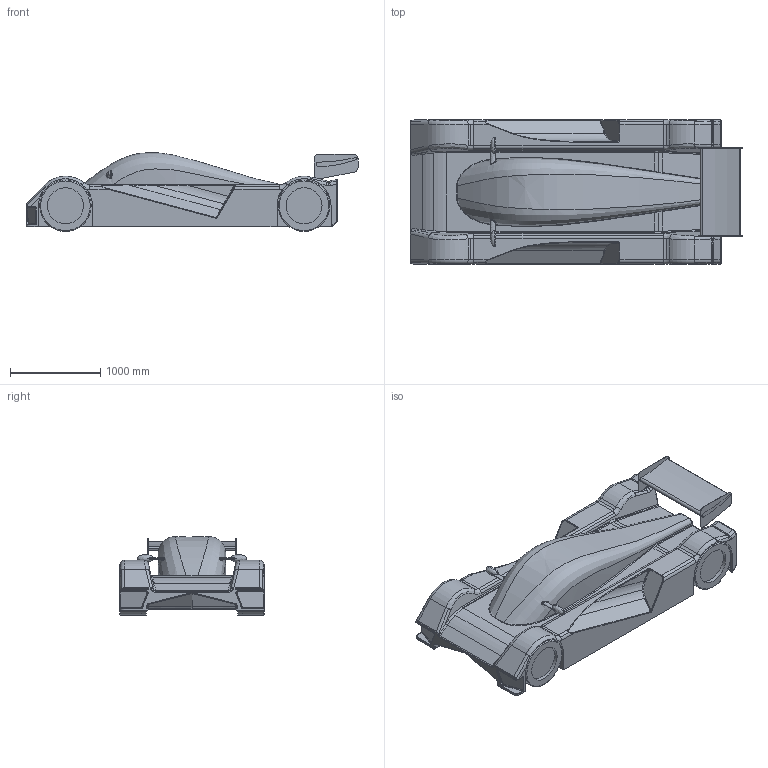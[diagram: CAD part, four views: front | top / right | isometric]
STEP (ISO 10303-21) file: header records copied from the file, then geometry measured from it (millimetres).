
FILE_DESCRIPTION(('STEP AP214'),'1');
FILE_NAME('C:/Users/Matteo/Desktop/GrabCAD/Test.stp','2012-10-04T17:25:08',(' '),(' '),'Spatial InterOp 3D',' ',' ');
FILE_SCHEMA(('automotive_design'));
Length unit declared in the file: millimetre
Products named in the file (4): Test; Ruote; Alettone; Corpo
Assembly tree (3 placements, depth 2):
  Test
    Ruote
    Alettone
    Corpo
Bounding box: 3687.76 x 1600 x 875.55 mm (x, y, z)
Volume: 2414458453.8 mm3; surface area: 23955691.1 mm2
Topology: 6 solids, 6 shells, 631 faces, 1637 edges, 1016 vertices
Faces by surface type: cylinder 312, plane 148, bspline 114, torus 48, sphere 4, extrusion 3, revolution 2
Entity records: 35801 total; most frequent: CARTESIAN_POINT 15088, DIRECTION 3388, ORIENTED_EDGE 3258, EDGE_CURVE 1629, AXIS2_PLACEMENT_3D 1350, VERTEX_POINT 1016, VECTOR 686, LINE 683
